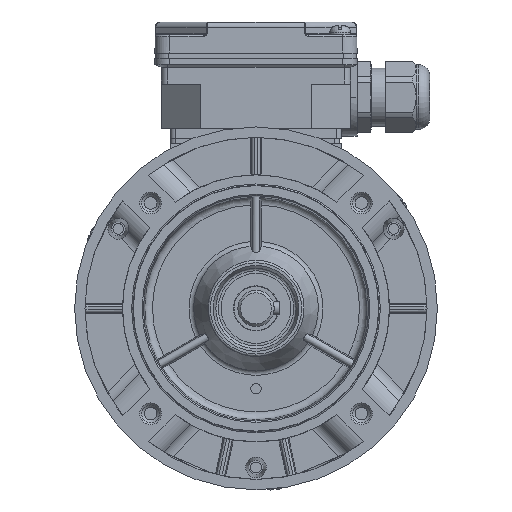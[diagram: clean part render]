
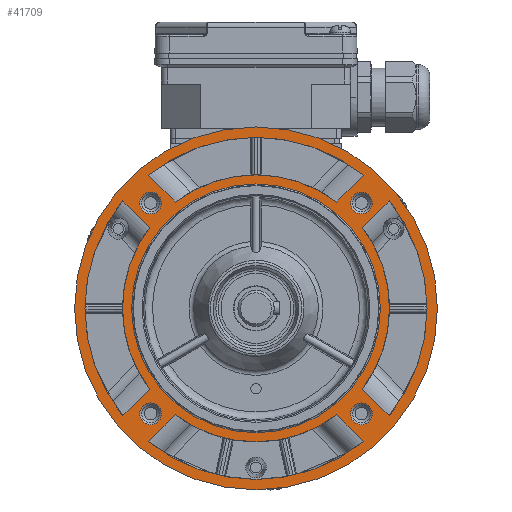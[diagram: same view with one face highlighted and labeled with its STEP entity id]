
A CAD part, front view. The second image highlights one B-rep face of the part: STEP entity #41709.
In plain terms, the highlighted planar face has unit normal (0, -1, 0).
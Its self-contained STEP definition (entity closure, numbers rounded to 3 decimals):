
#1742=LINE('',#69985,#4357);
#1743=LINE('',#69995,#4358);
#1744=LINE('',#70011,#4359);
#1745=LINE('',#70027,#4360);
#1746=LINE('',#70049,#4361);
#1747=LINE('',#70059,#4362);
#1748=LINE('',#70067,#4363);
#1749=LINE('',#70089,#4364);
#4357=VECTOR('',#52048,1000.);
#4358=VECTOR('',#52055,1000.);
#4359=VECTOR('',#52062,1000.);
#4360=VECTOR('',#52069,1000.);
#4361=VECTOR('',#52076,1000.);
#4362=VECTOR('',#52083,1000.);
#4363=VECTOR('',#52086,1000.);
#4364=VECTOR('',#52093,1000.);
#15984=ORIENTED_EDGE('',*,*,#24245,.T.);
#15985=ORIENTED_EDGE('',*,*,#24244,.T.);
#15986=ORIENTED_EDGE('',*,*,#24243,.T.);
#15987=ORIENTED_EDGE('',*,*,#24242,.T.);
#15988=ORIENTED_EDGE('',*,*,#24241,.F.);
#15989=ORIENTED_EDGE('',*,*,#24240,.F.);
#15990=ORIENTED_EDGE('',*,*,#24237,.T.);
#15991=ORIENTED_EDGE('',*,*,#24235,.T.);
#15992=ORIENTED_EDGE('',*,*,#24233,.T.);
#15993=ORIENTED_EDGE('',*,*,#24231,.F.);
#15994=ORIENTED_EDGE('',*,*,#24230,.F.);
#15995=ORIENTED_EDGE('',*,*,#24227,.T.);
#15996=ORIENTED_EDGE('',*,*,#24225,.T.);
#15997=ORIENTED_EDGE('',*,*,#24223,.F.);
#15998=ORIENTED_EDGE('',*,*,#24221,.F.);
#15999=ORIENTED_EDGE('',*,*,#24219,.T.);
#16000=ORIENTED_EDGE('',*,*,#24217,.T.);
#16001=ORIENTED_EDGE('',*,*,#24215,.F.);
#16002=ORIENTED_EDGE('',*,*,#24214,.F.);
#16003=ORIENTED_EDGE('',*,*,#24211,.T.);
#16004=ORIENTED_EDGE('',*,*,#25232,.T.);
#16005=ORIENTED_EDGE('',*,*,#24209,.T.);
#24209=EDGE_CURVE('',#29775,#29775,#32632,.T.);
#24211=EDGE_CURVE('',#29777,#29776,#32633,.T.);
#24214=EDGE_CURVE('',#29777,#29778,#1742,.T.);
#24215=EDGE_CURVE('',#29778,#29779,#32634,.T.);
#24217=EDGE_CURVE('',#29776,#29779,#1743,.T.);
#24219=EDGE_CURVE('',#29781,#29780,#32635,.T.);
#24221=EDGE_CURVE('',#29781,#29782,#1744,.T.);
#24223=EDGE_CURVE('',#29782,#29783,#32636,.T.);
#24225=EDGE_CURVE('',#29780,#29783,#1745,.T.);
#24227=EDGE_CURVE('',#29785,#29784,#32637,.T.);
#24230=EDGE_CURVE('',#29785,#29786,#1746,.T.);
#24231=EDGE_CURVE('',#29786,#29787,#32638,.T.);
#24233=EDGE_CURVE('',#29784,#29787,#1747,.T.);
#24235=EDGE_CURVE('',#29789,#29788,#1748,.T.);
#24237=EDGE_CURVE('',#29790,#29789,#32639,.T.);
#24240=EDGE_CURVE('',#29790,#29791,#1749,.T.);
#24241=EDGE_CURVE('',#29791,#29788,#32640,.T.);
#24242=EDGE_CURVE('',#29792,#29792,#32641,.F.);
#24243=EDGE_CURVE('',#29793,#29793,#32642,.F.);
#24244=EDGE_CURVE('',#29794,#29794,#32643,.F.);
#24245=EDGE_CURVE('',#29795,#29795,#32644,.F.);
#25232=EDGE_CURVE('',#30294,#30294,#32895,.F.);
#29775=VERTEX_POINT('',#69963);
#29776=VERTEX_POINT('',#69970);
#29777=VERTEX_POINT('',#69972);
#29778=VERTEX_POINT('',#69984);
#29779=VERTEX_POINT('',#69988);
#29780=VERTEX_POINT('',#70002);
#29781=VERTEX_POINT('',#70004);
#29782=VERTEX_POINT('',#70012);
#29783=VERTEX_POINT('',#70020);
#29784=VERTEX_POINT('',#70034);
#29785=VERTEX_POINT('',#70036);
#29786=VERTEX_POINT('',#70048);
#29787=VERTEX_POINT('',#70052);
#29788=VERTEX_POINT('',#70066);
#29789=VERTEX_POINT('',#70068);
#29790=VERTEX_POINT('',#70076);
#29791=VERTEX_POINT('',#70088);
#29792=VERTEX_POINT('',#70094);
#29793=VERTEX_POINT('',#70097);
#29794=VERTEX_POINT('',#70100);
#29795=VERTEX_POINT('',#70103);
#30294=VERTEX_POINT('',#72088);
#32632=CIRCLE('',#44591,69.993);
#32633=CIRCLE('',#44593,51.495);
#32634=CIRCLE('',#44596,65.993);
#32635=CIRCLE('',#44599,51.495);
#32636=CIRCLE('',#44602,65.993);
#32637=CIRCLE('',#44605,51.495);
#32638=CIRCLE('',#44608,65.993);
#32639=CIRCLE('',#44612,51.495);
#32640=CIRCLE('',#44615,65.993);
#32641=CIRCLE('',#44617,4.2);
#32642=CIRCLE('',#44619,4.2);
#32643=CIRCLE('',#44621,4.2);
#32644=CIRCLE('',#44623,4.2);
#32895=CIRCLE('',#45373,47.995);
#35345=EDGE_LOOP('',(#15984));
#35346=EDGE_LOOP('',(#15985));
#35347=EDGE_LOOP('',(#15986));
#35348=EDGE_LOOP('',(#15987));
#35349=EDGE_LOOP('',(#15988,#15989,#15990,#15991));
#35350=EDGE_LOOP('',(#15992,#15993,#15994,#15995));
#35351=EDGE_LOOP('',(#15996,#15997,#15998,#15999));
#35352=EDGE_LOOP('',(#16000,#16001,#16002,#16003));
#35353=EDGE_LOOP('',(#16004));
#35354=EDGE_LOOP('',(#16005));
#38148=FACE_BOUND('',#35345,.T.);
#38149=FACE_BOUND('',#35346,.T.);
#38150=FACE_BOUND('',#35347,.T.);
#38151=FACE_BOUND('',#35348,.T.);
#38152=FACE_BOUND('',#35349,.T.);
#38153=FACE_BOUND('',#35350,.T.);
#38154=FACE_BOUND('',#35351,.T.);
#38155=FACE_BOUND('',#35352,.T.);
#38156=FACE_BOUND('',#35353,.T.);
#38157=FACE_BOUND('',#35354,.T.);
#40030=PLANE('',#45372);
#41709=ADVANCED_FACE('',(#38148,#38149,#38150,#38151,#38152,#38153,#38154,
#38155,#38156,#38157),#40030,.T.);
#44591=AXIS2_PLACEMENT_3D('',#69962,#52040,#52041);
#44593=AXIS2_PLACEMENT_3D('',#69971,#52044,#52045);
#44596=AXIS2_PLACEMENT_3D('',#69987,#52051,#52052);
#44599=AXIS2_PLACEMENT_3D('',#70003,#52058,#52059);
#44602=AXIS2_PLACEMENT_3D('',#70019,#52065,#52066);
#44605=AXIS2_PLACEMENT_3D('',#70035,#52072,#52073);
#44608=AXIS2_PLACEMENT_3D('',#70051,#52079,#52080);
#44612=AXIS2_PLACEMENT_3D('',#70075,#52089,#52090);
#44615=AXIS2_PLACEMENT_3D('',#70091,#52096,#52097);
#44617=AXIS2_PLACEMENT_3D('',#70093,#52100,#52101);
#44619=AXIS2_PLACEMENT_3D('',#70096,#52104,#52105);
#44621=AXIS2_PLACEMENT_3D('',#70099,#52108,#52109);
#44623=AXIS2_PLACEMENT_3D('',#70102,#52112,#52113);
#45372=AXIS2_PLACEMENT_3D('',#72086,#54346,#54347);
#45373=AXIS2_PLACEMENT_3D('',#72087,#54348,#54349);
#52040=DIRECTION('',(0.,-1.,0.));
#52041=DIRECTION('',(0.,0.,1.));
#52044=DIRECTION('',(0.,-1.,0.));
#52045=DIRECTION('',(0.,0.,1.));
#52048=DIRECTION('',(0.707,0.,0.707));
#52051=DIRECTION('',(0.,-1.,0.));
#52052=DIRECTION('',(0.,0.,1.));
#52055=DIRECTION('',(-0.707,0.,0.707));
#52058=DIRECTION('',(0.,-1.,0.));
#52059=DIRECTION('',(0.,0.,1.));
#52062=DIRECTION('',(-0.707,0.,0.707));
#52065=DIRECTION('',(0.,-1.,0.));
#52066=DIRECTION('',(0.,0.,1.));
#52069=DIRECTION('',(-0.707,0.,-0.707));
#52072=DIRECTION('',(0.,-1.,0.));
#52073=DIRECTION('',(0.,0.,1.));
#52076=DIRECTION('',(-0.707,0.,-0.707));
#52079=DIRECTION('',(0.,-1.,0.));
#52080=DIRECTION('',(0.,0.,1.));
#52083=DIRECTION('',(0.707,0.,-0.707));
#52086=DIRECTION('',(0.707,0.,0.707));
#52089=DIRECTION('',(0.,-1.,0.));
#52090=DIRECTION('',(0.,0.,1.));
#52093=DIRECTION('',(0.707,0.,-0.707));
#52096=DIRECTION('',(0.,-1.,0.));
#52097=DIRECTION('',(0.,0.,1.));
#52100=DIRECTION('',(0.,-1.,0.));
#52101=DIRECTION('',(0.,0.,1.));
#52104=DIRECTION('',(0.,-1.,0.));
#52105=DIRECTION('',(0.,0.,1.));
#52108=DIRECTION('',(0.,-1.,0.));
#52109=DIRECTION('',(0.,0.,1.));
#52112=DIRECTION('',(0.,-1.,0.));
#52113=DIRECTION('',(0.,0.,1.));
#54346=DIRECTION('',(0.,-1.,0.));
#54347=DIRECTION('',(0.,0.,1.));
#54348=DIRECTION('',(0.,-1.,0.));
#54349=DIRECTION('',(0.,0.,1.));
#69962=CARTESIAN_POINT('',(0.,-40.493,0.001));
#69963=CARTESIAN_POINT('',(0.,-40.493,69.994));
#69970=CARTESIAN_POINT('',(-31.125,-40.493,41.025));
#69971=CARTESIAN_POINT('',(0.,-40.493,0.001));
#69972=CARTESIAN_POINT('',(31.125,-40.493,41.025));
#69984=CARTESIAN_POINT('',(41.452,-40.493,51.352));
#69985=CARTESIAN_POINT('',(29.214,-40.493,39.113));
#69987=CARTESIAN_POINT('',(0.,-40.493,0.001));
#69988=CARTESIAN_POINT('',(-41.452,-40.493,51.352));
#69995=CARTESIAN_POINT('',(-29.214,-40.493,39.113));
#70002=CARTESIAN_POINT('',(-41.024,-40.493,-31.124));
#70003=CARTESIAN_POINT('',(0.,-40.493,0.001));
#70004=CARTESIAN_POINT('',(-41.024,-40.493,31.126));
#70011=CARTESIAN_POINT('',(-39.112,-40.493,29.215));
#70012=CARTESIAN_POINT('',(-51.35,-40.493,41.453));
#70019=CARTESIAN_POINT('',(0.,-40.493,0.001));
#70020=CARTESIAN_POINT('',(-51.35,-40.493,-41.451));
#70027=CARTESIAN_POINT('',(-39.112,-40.493,-29.212));
#70034=CARTESIAN_POINT('',(31.125,-40.493,-41.022));
#70035=CARTESIAN_POINT('',(0.,-40.493,0.001));
#70036=CARTESIAN_POINT('',(-31.125,-40.493,-41.022));
#70048=CARTESIAN_POINT('',(-41.452,-40.493,-51.349));
#70049=CARTESIAN_POINT('',(-29.214,-40.493,-39.111));
#70051=CARTESIAN_POINT('',(0.,-40.493,0.001));
#70052=CARTESIAN_POINT('',(41.452,-40.493,-51.349));
#70059=CARTESIAN_POINT('',(29.214,-40.493,-39.111));
#70066=CARTESIAN_POINT('',(51.351,-40.493,41.453));
#70067=CARTESIAN_POINT('',(39.112,-40.493,29.215));
#70068=CARTESIAN_POINT('',(41.024,-40.493,31.126));
#70075=CARTESIAN_POINT('',(0.,-40.493,0.001));
#70076=CARTESIAN_POINT('',(41.024,-40.493,-31.124));
#70088=CARTESIAN_POINT('',(51.351,-40.493,-41.451));
#70089=CARTESIAN_POINT('',(39.112,-40.493,-29.212));
#70091=CARTESIAN_POINT('',(0.,-40.493,0.001));
#70093=CARTESIAN_POINT('',(-40.654,-40.493,40.656));
#70094=CARTESIAN_POINT('',(-40.654,-40.493,44.855));
#70096=CARTESIAN_POINT('',(40.655,-40.493,40.656));
#70097=CARTESIAN_POINT('',(40.655,-40.493,44.855));
#70099=CARTESIAN_POINT('',(40.655,-40.493,-40.653));
#70100=CARTESIAN_POINT('',(40.655,-40.493,-36.454));
#70102=CARTESIAN_POINT('',(-40.654,-40.493,-40.653));
#70103=CARTESIAN_POINT('',(-40.654,-40.493,-36.454));
#72086=CARTESIAN_POINT('',(0.,-40.493,47.497));
#72087=CARTESIAN_POINT('',(0.,-40.493,0.001));
#72088=CARTESIAN_POINT('',(0.,-40.493,47.996));
